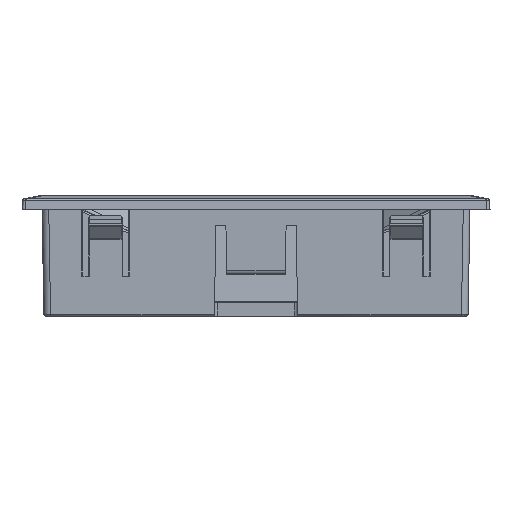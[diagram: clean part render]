
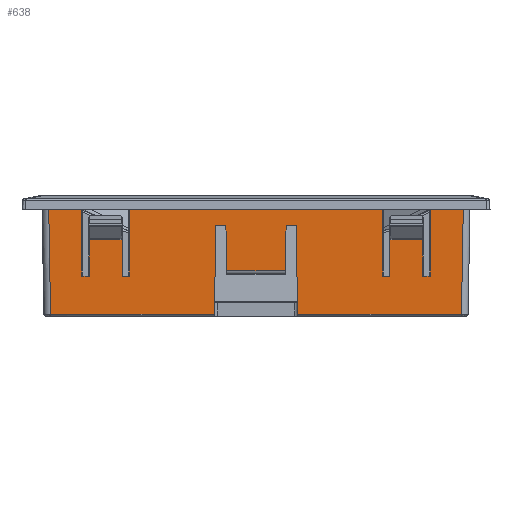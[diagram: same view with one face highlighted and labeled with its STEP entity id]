
A CAD part, front view. The second image highlights one B-rep face of the part: STEP entity #638.
In plain terms, the highlighted planar face has unit normal (0, -1, -0.018).
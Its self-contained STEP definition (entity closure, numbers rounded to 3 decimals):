
#638=ADVANCED_FACE('',(#5671),#5673,.T.);
#5671=FACE_BOUND('',#5672,.T.);
#5672=EDGE_LOOP('',(#14526,#14527,#14528,#14529,#14530,#14531,#14532,#14533,#14534,
#14535,#14536,#14537,#14538,#14539,#14540,#14541,#14542,#14543,#14544,#14545,#14546,
#14547,#14548,#14549,#14550,#14551,#14552,#14553));
#5673=PLANE('',#5674);
#5674=AXIS2_PLACEMENT_3D('',#5675,#5676,#5677);
#5675=CARTESIAN_POINT('',(-34.646,-45.25,13.9));
#5676=DIRECTION('',(0.,-1.,-0.017));
#5677=DIRECTION('',(1.,0.,0.));
#14526=ORIENTED_EDGE('',*,*,#17249,.F.);
#14527=ORIENTED_EDGE('',*,*,#17250,.F.);
#14528=ORIENTED_EDGE('',*,*,#17251,.T.);
#14529=ORIENTED_EDGE('',*,*,#17252,.F.);
#14530=ORIENTED_EDGE('',*,*,#17235,.T.);
#14531=ORIENTED_EDGE('',*,*,#17248,.T.);
#14532=ORIENTED_EDGE('',*,*,#17253,.F.);
#14533=ORIENTED_EDGE('',*,*,#17254,.F.);
#14534=ORIENTED_EDGE('',*,*,#17255,.F.);
#14535=ORIENTED_EDGE('',*,*,#17256,.F.);
#14536=ORIENTED_EDGE('',*,*,#17257,.T.);
#14537=ORIENTED_EDGE('',*,*,#17258,.T.);
#14538=ORIENTED_EDGE('',*,*,#17259,.T.);
#14539=ORIENTED_EDGE('',*,*,#17260,.F.);
#14540=ORIENTED_EDGE('',*,*,#17261,.F.);
#14541=ORIENTED_EDGE('',*,*,#17262,.T.);
#14542=ORIENTED_EDGE('',*,*,#17263,.F.);
#14543=ORIENTED_EDGE('',*,*,#17264,.T.);
#14544=ORIENTED_EDGE('',*,*,#17265,.T.);
#14545=ORIENTED_EDGE('',*,*,#17266,.F.);
#14546=ORIENTED_EDGE('',*,*,#17267,.T.);
#14547=ORIENTED_EDGE('',*,*,#17268,.T.);
#14548=ORIENTED_EDGE('',*,*,#17269,.F.);
#14549=ORIENTED_EDGE('',*,*,#17270,.T.);
#14550=ORIENTED_EDGE('',*,*,#17271,.T.);
#14551=ORIENTED_EDGE('',*,*,#17272,.F.);
#14552=ORIENTED_EDGE('',*,*,#17273,.F.);
#14553=ORIENTED_EDGE('',*,*,#17274,.F.);
#17235=EDGE_CURVE('',#18829,#18827,#18830,.T.);
#17248=EDGE_CURVE('',#18827,#18849,#18851,.T.);
#17249=EDGE_CURVE('',#18852,#18853,#18854,.T.);
#17250=EDGE_CURVE('',#18855,#18852,#18856,.T.);
#17251=EDGE_CURVE('',#18855,#18857,#18858,.T.);
#17252=EDGE_CURVE('',#18829,#18857,#18859,.T.);
#17253=EDGE_CURVE('',#18860,#18849,#18861,.T.);
#17254=EDGE_CURVE('',#18862,#18860,#18863,.T.);
#17255=EDGE_CURVE('',#18864,#18862,#18865,.T.);
#17256=EDGE_CURVE('',#18866,#18864,#18867,.T.);
#17257=EDGE_CURVE('',#18866,#18868,#18869,.T.);
#17258=EDGE_CURVE('',#18868,#18870,#18871,.T.);
#17259=EDGE_CURVE('',#18870,#18872,#18873,.T.);
#17260=EDGE_CURVE('',#18874,#18872,#18875,.T.);
#17261=EDGE_CURVE('',#18876,#18874,#18877,.T.);
#17262=EDGE_CURVE('',#18876,#18878,#18879,.T.);
#17263=EDGE_CURVE('',#18880,#18878,#18881,.T.);
#17264=EDGE_CURVE('',#18880,#18882,#18883,.T.);
#17265=EDGE_CURVE('',#18882,#18884,#18885,.T.);
#17266=EDGE_CURVE('',#18886,#18884,#18887,.T.);
#17267=EDGE_CURVE('',#18886,#18888,#18889,.T.);
#17268=EDGE_CURVE('',#18888,#18890,#18891,.T.);
#17269=EDGE_CURVE('',#18892,#18890,#18893,.T.);
#17270=EDGE_CURVE('',#18892,#18894,#18895,.T.);
#17271=EDGE_CURVE('',#18894,#18896,#18897,.T.);
#17272=EDGE_CURVE('',#18898,#18896,#18899,.T.);
#17273=EDGE_CURVE('',#18900,#18898,#18901,.T.);
#17274=EDGE_CURVE('',#18853,#18900,#18902,.T.);
#18827=VERTEX_POINT('',#21997);
#18829=VERTEX_POINT('',#22002);
#18830=LINE('',#22003,#22004);
#18849=VERTEX_POINT('',#22048);
#18851=LINE('',#22053,#22054);
#18852=VERTEX_POINT('',#22056);
#18853=VERTEX_POINT('',#22057);
#18854=LINE('',#22058,#22059);
#18855=VERTEX_POINT('',#22061);
#18856=LINE('',#22062,#22063);
#18857=VERTEX_POINT('',#22065);
#18858=LINE('',#22066,#22067);
#18859=LINE('',#22069,#22070);
#18860=VERTEX_POINT('',#22072);
#18861=LINE('',#22073,#22074);
#18862=VERTEX_POINT('',#22076);
#18863=LINE('',#22077,#22078);
#18864=VERTEX_POINT('',#22080);
#18865=LINE('',#22081,#22082);
#18866=VERTEX_POINT('',#22084);
#18867=LINE('',#22085,#22086);
#18868=VERTEX_POINT('',#22088);
#18869=LINE('',#22089,#22090);
#18870=VERTEX_POINT('',#22092);
#18871=LINE('',#22093,#22094);
#18872=VERTEX_POINT('',#22096);
#18873=LINE('',#22097,#22098);
#18874=VERTEX_POINT('',#22100);
#18875=LINE('',#22101,#22102);
#18876=VERTEX_POINT('',#22104);
#18877=LINE('',#22105,#22106);
#18878=VERTEX_POINT('',#22108);
#18879=LINE('',#22109,#22110);
#18880=VERTEX_POINT('',#22112);
#18881=LINE('',#22113,#22114);
#18882=VERTEX_POINT('',#22116);
#18883=LINE('',#22117,#22118);
#18884=VERTEX_POINT('',#22120);
#18885=LINE('',#22121,#22122);
#18886=VERTEX_POINT('',#22124);
#18887=LINE('',#22125,#22126);
#18888=VERTEX_POINT('',#22128);
#18889=LINE('',#22129,#22130);
#18890=VERTEX_POINT('',#22132);
#18891=LINE('',#22133,#22134);
#18892=VERTEX_POINT('',#22136);
#18893=LINE('',#22137,#22138);
#18894=VERTEX_POINT('',#22140);
#18895=LINE('',#22141,#22142);
#18896=VERTEX_POINT('',#22144);
#18897=LINE('',#22145,#22146);
#18898=VERTEX_POINT('',#22148);
#18899=LINE('',#22149,#22150);
#18900=VERTEX_POINT('',#22152);
#18901=LINE('',#22153,#22154);
#18902=LINE('',#22156,#22157);
#21997=CARTESIAN_POINT('',(24.964,-45.17,9.3));
#22002=CARTESIAN_POINT('',(24.964,-45.075,3.9));
#22003=CARTESIAN_POINT('',(24.964,-45.075,3.9));
#22004=VECTOR('',#22005,1.);
#22005=DIRECTION('',(0.,-0.017,1.));
#22048=CARTESIAN_POINT('',(20.036,-45.17,9.3));
#22053=CARTESIAN_POINT('',(24.964,-45.17,9.3));
#22054=VECTOR('',#22055,1.);
#22055=DIRECTION('',(-1.,0.,0.));
#22056=CARTESIAN_POINT('',(31.,-45.25,13.9));
#22057=CARTESIAN_POINT('',(30.726,-44.976,-1.805));
#22058=CARTESIAN_POINT('',(31.,-45.25,13.9));
#22059=VECTOR('',#22060,1.);
#22060=DIRECTION('',(-0.017,0.017,-1.));
#22061=CARTESIAN_POINT('',(26.036,-45.25,13.9));
#22062=CARTESIAN_POINT('',(26.036,-45.25,13.9));
#22063=VECTOR('',#22064,1.);
#22064=DIRECTION('',(1.,0.,0.));
#22065=CARTESIAN_POINT('',(26.036,-45.075,3.9));
#22066=CARTESIAN_POINT('',(26.036,-45.25,13.9));
#22067=VECTOR('',#22068,1.);
#22068=DIRECTION('',(0.,0.017,-1.));
#22069=CARTESIAN_POINT('',(24.964,-45.075,3.9));
#22070=VECTOR('',#22071,1.);
#22071=DIRECTION('',(1.,0.,0.));
#22072=CARTESIAN_POINT('',(20.036,-45.075,3.9));
#22073=CARTESIAN_POINT('',(20.036,-45.075,3.9));
#22074=VECTOR('',#22075,1.);
#22075=DIRECTION('',(0.,-0.017,1.));
#22076=CARTESIAN_POINT('',(18.964,-45.075,3.9));
#22077=CARTESIAN_POINT('',(18.964,-45.075,3.9));
#22078=VECTOR('',#22079,1.);
#22079=DIRECTION('',(1.,0.,0.));
#22080=CARTESIAN_POINT('',(18.964,-45.25,13.9));
#22081=CARTESIAN_POINT('',(18.964,-45.25,13.9));
#22082=VECTOR('',#22083,1.);
#22083=DIRECTION('',(0.,0.017,-1.));
#22084=CARTESIAN_POINT('',(-18.964,-45.25,13.9));
#22085=CARTESIAN_POINT('',(-18.964,-45.25,13.9));
#22086=VECTOR('',#22087,1.);
#22087=DIRECTION('',(1.,0.,0.));
#22088=CARTESIAN_POINT('',(-18.964,-45.075,3.9));
#22089=CARTESIAN_POINT('',(-18.964,-45.25,13.9));
#22090=VECTOR('',#22091,1.);
#22091=DIRECTION('',(0.,0.017,-1.));
#22092=CARTESIAN_POINT('',(-20.036,-45.075,3.9));
#22093=CARTESIAN_POINT('',(-18.964,-45.075,3.9));
#22094=VECTOR('',#22095,1.);
#22095=DIRECTION('',(-1.,0.,0.));
#22096=CARTESIAN_POINT('',(-20.036,-45.17,9.3));
#22097=CARTESIAN_POINT('',(-20.036,-45.075,3.9));
#22098=VECTOR('',#22099,1.);
#22099=DIRECTION('',(0.,-0.017,1.));
#22100=CARTESIAN_POINT('',(-24.964,-45.17,9.3));
#22101=CARTESIAN_POINT('',(-24.964,-45.17,9.3));
#22102=VECTOR('',#22103,1.);
#22103=DIRECTION('',(1.,0.,0.));
#22104=CARTESIAN_POINT('',(-24.964,-45.075,3.9));
#22105=CARTESIAN_POINT('',(-24.964,-45.075,3.9));
#22106=VECTOR('',#22107,1.);
#22107=DIRECTION('',(0.,-0.017,1.));
#22108=CARTESIAN_POINT('',(-26.036,-45.075,3.9));
#22109=CARTESIAN_POINT('',(-24.964,-45.075,3.9));
#22110=VECTOR('',#22111,1.);
#22111=DIRECTION('',(-1.,0.,0.));
#22112=CARTESIAN_POINT('',(-26.036,-45.25,13.9));
#22113=CARTESIAN_POINT('',(-26.036,-45.25,13.9));
#22114=VECTOR('',#22115,1.);
#22115=DIRECTION('',(0.,0.017,-1.));
#22116=CARTESIAN_POINT('',(-31.,-45.25,13.9));
#22117=CARTESIAN_POINT('',(-26.036,-45.25,13.9));
#22118=VECTOR('',#22119,1.);
#22119=DIRECTION('',(-1.,0.,0.));
#22120=CARTESIAN_POINT('',(-30.726,-44.976,-1.805));
#22121=CARTESIAN_POINT('',(-31.,-45.25,13.9));
#22122=VECTOR('',#22123,1.);
#22123=DIRECTION('',(0.017,0.017,-1.));
#22124=CARTESIAN_POINT('',(-6.23,-44.976,-1.805));
#22125=CARTESIAN_POINT('',(-6.23,-44.976,-1.805));
#22126=VECTOR('',#22127,1.);
#22127=DIRECTION('',(-1.,0.,0.));
#22128=CARTESIAN_POINT('',(-6.,-45.206,11.4));
#22129=CARTESIAN_POINT('',(-6.23,-44.976,-1.805));
#22130=VECTOR('',#22131,1.);
#22131=DIRECTION('',(0.017,-0.017,1.));
#22132=CARTESIAN_POINT('',(-4.5,-45.206,11.4));
#22133=CARTESIAN_POINT('',(-6.,-45.206,11.4));
#22134=VECTOR('',#22135,1.);
#22135=DIRECTION('',(1.,0.,0.));
#22136=CARTESIAN_POINT('',(-4.383,-45.089,4.691));
#22137=CARTESIAN_POINT('',(-4.383,-45.089,4.691));
#22138=VECTOR('',#22139,1.);
#22139=DIRECTION('',(-0.017,-0.017,1.));
#22140=CARTESIAN_POINT('',(4.383,-45.089,4.691));
#22141=CARTESIAN_POINT('',(-4.383,-45.089,4.691));
#22142=VECTOR('',#22143,1.);
#22143=DIRECTION('',(1.,0.,0.));
#22144=CARTESIAN_POINT('',(4.5,-45.206,11.4));
#22145=CARTESIAN_POINT('',(4.383,-45.089,4.691));
#22146=VECTOR('',#22147,1.);
#22147=DIRECTION('',(0.017,-0.017,1.));
#22148=CARTESIAN_POINT('',(6.,-45.206,11.4));
#22149=CARTESIAN_POINT('',(6.,-45.206,11.4));
#22150=VECTOR('',#22151,1.);
#22151=DIRECTION('',(-1.,0.,0.));
#22152=CARTESIAN_POINT('',(6.23,-44.976,-1.805));
#22153=CARTESIAN_POINT('',(6.23,-44.976,-1.805));
#22154=VECTOR('',#22155,1.);
#22155=DIRECTION('',(-0.017,-0.017,1.));
#22156=CARTESIAN_POINT('',(30.726,-44.976,-1.805));
#22157=VECTOR('',#22158,1.);
#22158=DIRECTION('',(-1.,0.,0.));
